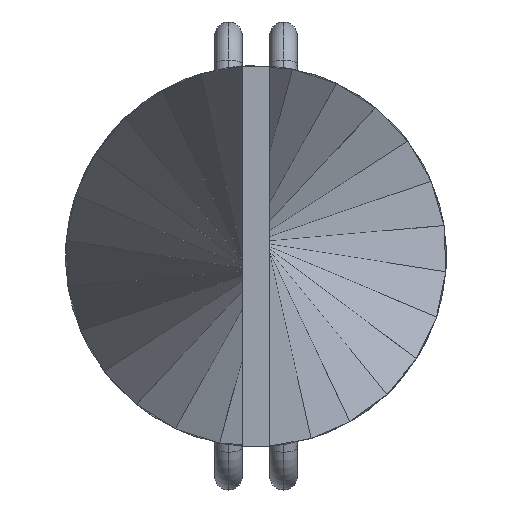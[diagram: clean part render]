
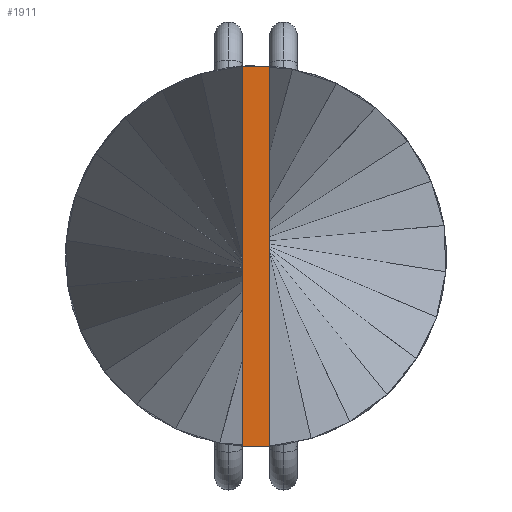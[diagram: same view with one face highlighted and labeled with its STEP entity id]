
A CAD part, left-side view. The second image highlights one B-rep face of the part: STEP entity #1911.
In plain terms, the highlighted planar face has unit normal (-1, 0, 0).
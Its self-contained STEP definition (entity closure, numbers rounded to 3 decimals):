
#15 = FACE_OUTER_BOUND ( 'NONE', #1525, .T. ) ;
#304 = CARTESIAN_POINT ( 'NONE',  ( -100., -0.5, -6.9 ) ) ;
#468 = AXIS2_PLACEMENT_3D ( 'NONE', #1351, #1273, #1272 ) ;
#930 = VECTOR ( 'NONE', #2009, 1000. ) ;
#965 = LINE ( 'NONE', #2022, #930 ) ;
#1033 = VECTOR ( 'NONE', #2030, 1000. ) ;
#1118 = VECTOR ( 'NONE', #2049, 1000. ) ;
#1190 = VECTOR ( 'NONE', #1367, 1000. ) ;
#1215 = VERTEX_POINT ( 'NONE', #1901 ) ;
#1226 = LINE ( 'NONE', #2038, #1033 ) ;
#1270 = EDGE_CURVE ( 'NONE', #1467, #1215, #2484, .T. ) ;
#1272 = DIRECTION ( 'NONE',  ( 0., 0., 1. ) ) ;
#1273 = DIRECTION ( 'NONE',  ( -1., 0., 0. ) ) ;
#1274 = LINE ( 'NONE', #2064, #1118 ) ;
#1290 = PLANE ( 'NONE',  #468 ) ;
#1351 = CARTESIAN_POINT ( 'NONE',  ( -100., 0., 0. ) ) ;
#1367 = DIRECTION ( 'NONE',  ( 0., 1., 0. ) ) ;
#1419 = ORIENTED_EDGE ( 'NONE', *, *, #1664, .T. ) ;
#1467 = VERTEX_POINT ( 'NONE', #3089 ) ;
#1525 = EDGE_LOOP ( 'NONE', ( #1934, #1419, #1637, #1700 ) ) ;
#1637 = ORIENTED_EDGE ( 'NONE', *, *, #1687, .T. ) ;
#1664 = EDGE_CURVE ( 'NONE', #1215, #1703, #1274, .T. ) ;
#1687 = EDGE_CURVE ( 'NONE', #1703, #3030, #1226, .T. ) ;
#1700 = ORIENTED_EDGE ( 'NONE', *, *, #1709, .T. ) ;
#1703 = VERTEX_POINT ( 'NONE', #2028 ) ;
#1709 = EDGE_CURVE ( 'NONE', #3030, #1467, #965, .T. ) ;
#1839 = CARTESIAN_POINT ( 'NONE',  ( -100., -0.5, 6.9 ) ) ;
#1901 = CARTESIAN_POINT ( 'NONE',  ( -100., 0.5, 6.9 ) ) ;
#1911 = ADVANCED_FACE ( 'NONE', ( #15 ), #1290, .T. ) ;
#1934 = ORIENTED_EDGE ( 'NONE', *, *, #1270, .T. ) ;
#2009 = DIRECTION ( 'NONE',  ( 0., 0., 1. ) ) ;
#2022 = CARTESIAN_POINT ( 'NONE',  ( -100., -0.5, -6.9 ) ) ;
#2028 = CARTESIAN_POINT ( 'NONE',  ( -100., 0.5, -6.9 ) ) ;
#2030 = DIRECTION ( 'NONE',  ( 0., -1., 0. ) ) ;
#2038 = CARTESIAN_POINT ( 'NONE',  ( -100., 0.5, -6.9 ) ) ;
#2049 = DIRECTION ( 'NONE',  ( 0., 0., -1. ) ) ;
#2064 = CARTESIAN_POINT ( 'NONE',  ( -100., 0.5, 6.9 ) ) ;
#2484 = LINE ( 'NONE', #1839, #1190 ) ;
#3030 = VERTEX_POINT ( 'NONE', #304 ) ;
#3089 = CARTESIAN_POINT ( 'NONE',  ( -100., -0.5, 6.9 ) ) ;
